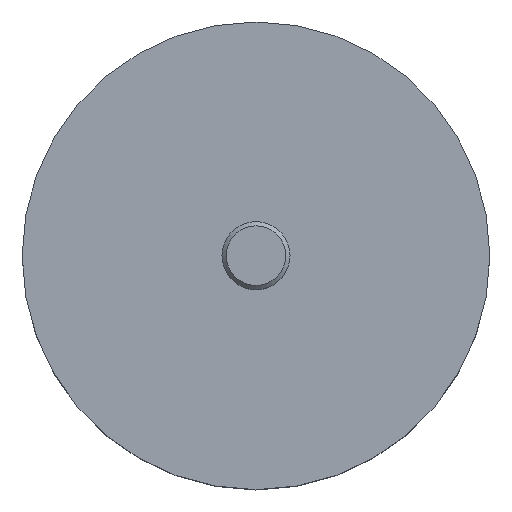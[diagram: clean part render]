
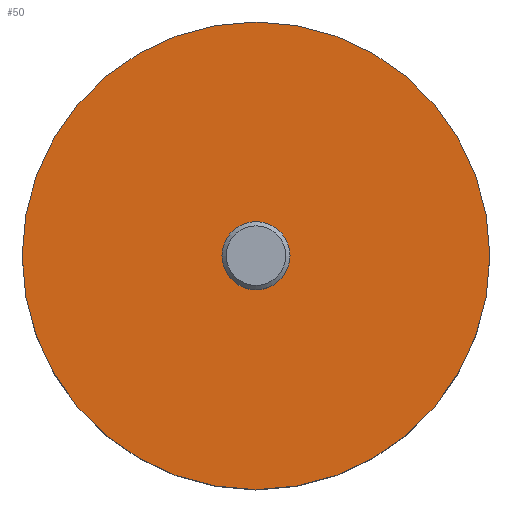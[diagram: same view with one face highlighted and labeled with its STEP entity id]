
A CAD part, top view. The second image highlights one B-rep face of the part: STEP entity #50.
In plain terms, the highlighted planar face has unit normal (0, 0, 1).
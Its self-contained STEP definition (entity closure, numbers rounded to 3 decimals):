
#50=ADVANCED_FACE('',(#64,#65),#60,.T.);
#60=PLANE('',#149);
#64=FACE_BOUND('',#82,.T.);
#65=FACE_BOUND('',#83,.T.);
#82=EDGE_LOOP('',(#100));
#83=EDGE_LOOP('',(#101));
#100=ORIENTED_EDGE('',*,*,#128,.F.);
#101=ORIENTED_EDGE('',*,*,#129,.F.);
#118=VERTEX_POINT('',#208);
#119=VERTEX_POINT('',#210);
#128=EDGE_CURVE('',#118,#118,#137,.T.);
#129=EDGE_CURVE('',#119,#119,#138,.T.);
#137=CIRCLE('',#147,4.);
#138=CIRCLE('',#148,27.5);
#147=AXIS2_PLACEMENT_3D('',#207,#168,#169);
#148=AXIS2_PLACEMENT_3D('',#209,#170,#171);
#149=AXIS2_PLACEMENT_3D('',#211,#172,#173);
#168=DIRECTION('',(0.,0.,1.));
#169=DIRECTION('',(1.,0.,0.));
#170=DIRECTION('',(0.,0.,-1.));
#171=DIRECTION('',(-1.,0.,0.));
#172=DIRECTION('',(0.,0.,1.));
#173=DIRECTION('',(1.,0.,0.));
#207=CARTESIAN_POINT('',(0.,0.,23.));
#208=CARTESIAN_POINT('',(4.,0.,23.));
#209=CARTESIAN_POINT('',(0.,0.,23.));
#210=CARTESIAN_POINT('',(-27.5,0.,23.));
#211=CARTESIAN_POINT('',(0.,0.,23.));
